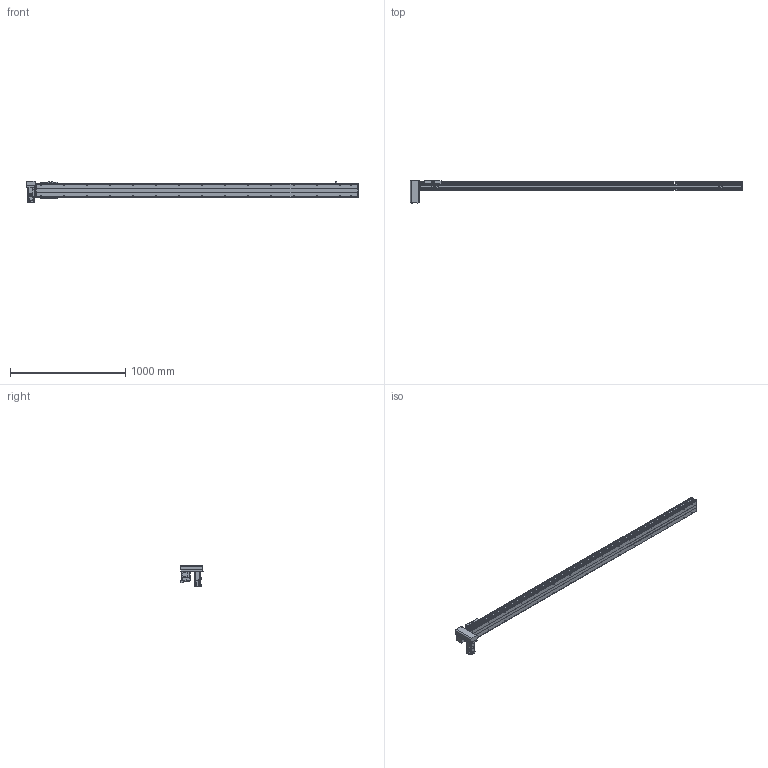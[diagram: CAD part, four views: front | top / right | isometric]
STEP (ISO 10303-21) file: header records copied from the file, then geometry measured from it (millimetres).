
FILE_DESCRIPTION( ( 'STEP AP214' ), '1' );
FILE_NAME( 'x:/temp/worker_27/temp/exporttempdir_6708_206_b6zpk/format_0/PBS120-P40-S2500-RD-T40-C1-N(0).stp', '2022-06-06T00:44:13', ( 'License CC BY-ND 4.0' ), ( 'CADENAS' ), ' ', 'PARTsolutions', ' ' );
FILE_SCHEMA( ( 'AUTOMOTIVE_DESIGN { 1 0 10303 214 1 1 1 1 }' ) );
Length unit declared in the file: millimetre
Products named in the file (7): PBS120-P40-S2500-RD-T40-C1-N(0); _PBS120-S2500()_body; _PBS120T-RD_motors; _T40-p1; _PBS120_sliser; _PBS120_plant; _PBS120_sensor
Assembly tree (8 placements, depth 2):
  PBS120-P40-S2500-RD-T40-C1-N(0)
    _PBS120-S2500()_body
    _PBS120T-RD_motors
    _T40-p1
    _PBS120_sliser
    _PBS120_plant
    _PBS120_sensor  x3
Bounding box: 2886 x 196 x 189.7 mm (x, y, z)
Volume: 10843617.8 mm3; surface area: 2241065.7 mm2
Topology: 8 solids, 8 shells, 870 faces, 2226 edges, 1429 vertices
Faces by surface type: plane 563, cylinder 243, cone 62, torus 2
Full cylindrical faces by diameter (mm): 2.459 x6, 3.242 x4, 4 x2, 4.134 x4, 4.5 x10, 4.917 x34, 5.5 x11, 6 x2, 6.6 x1, 7 x2, 8.5 x4, 9 x4, 12 x1, 14 x1, 30 x2, 40 x1, 50 x2
Entity records: 28500 total; most frequent: DIRECTION 3908, CARTESIAN_POINT 3803, ORIENTED_EDGE 3586, EDGE_CURVE 1793, AXIS2_PLACEMENT_3D 1340, VERTEX_POINT 1235, LINE 1228, VECTOR 1228
